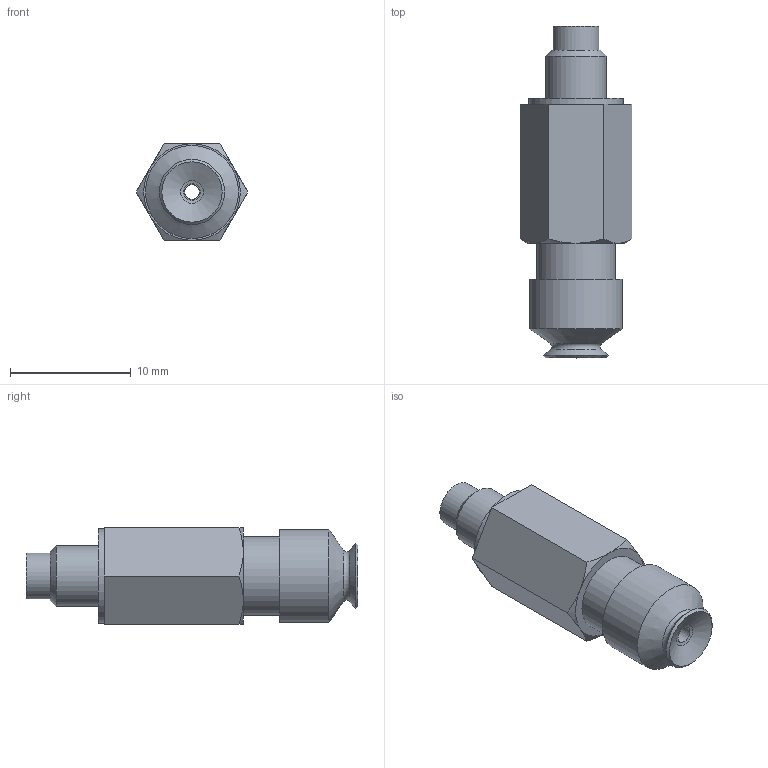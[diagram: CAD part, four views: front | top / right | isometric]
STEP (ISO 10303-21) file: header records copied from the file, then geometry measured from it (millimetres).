
FILE_DESCRIPTION(('STEP AP203'),'1');
FILE_NAME('.stp','2025-04-07T02:36:58',(' '),(' '),'Spatial InterOp 3D',' ',' ');
FILE_SCHEMA(('CONFIG_CONTROL_DESIGN'));
Length unit declared in the file: millimetre
Products named in the file (4): BPSS-L3-BPFG-5A-※; BPSS-7-L3-M; BPSS-7-L3-F; BPFG-5A-※
Assembly tree (3 placements, depth 2):
  BPSS-L3-BPFG-5A-※
    BPSS-7-L3-M
    BPSS-7-L3-F
    BPFG-5A-※
Bounding box: 9.24 x 27.5 x 8 mm (x, y, z)
Volume: 970.6 mm3; surface area: 1575.7 mm2
Topology: 3 solids, 3 shells, 54 faces, 103 edges, 64 vertices
Faces by surface type: plane 21, cylinder 15, cone 11, torus 6, bspline 1
Full cylindrical faces by diameter (mm): 1.2 x1, 1.4 x1, 2.4 x2, 3.4 x1, 3.8 x1, 4 x2, 5 x1, 6 x2, 6.5 x2, 7.7 x1, 7.8 x1
Entity records: 1417 total; most frequent: CARTESIAN_POINT 239, DIRECTION 220, ORIENTED_EDGE 142, AXIS2_PLACEMENT_3D 104, EDGE_LOOP 96, FACE_OUTER_BOUND 76, EDGE_CURVE 71, VERTEX_POINT 59
